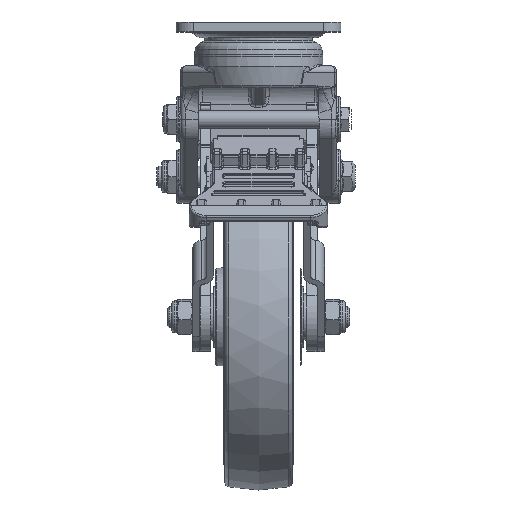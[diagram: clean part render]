
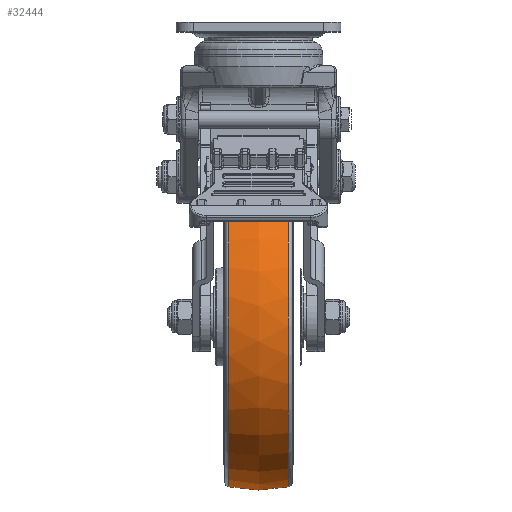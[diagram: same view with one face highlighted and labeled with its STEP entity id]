
A CAD part, front view. The second image highlights one B-rep face of the part: STEP entity #32444.
In plain terms, the highlighted free-form (B-spline) face has degree [2, 2] with [3, 9] control points.
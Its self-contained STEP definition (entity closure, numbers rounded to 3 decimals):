
#27=(
BOUNDED_SURFACE()
B_SPLINE_SURFACE(2,2,((#74589,#74590,#74591,#74592,#74593,#74594,#74595,
#74596,#74597),(#74598,#74599,#74600,#74601,#74602,#74603,#74604,#74605,
#74606),(#74607,#74608,#74609,#74610,#74611,#74612,#74613,#74614,#74615)),
 .UNSPECIFIED.,.F.,.T.,.F.)
B_SPLINE_SURFACE_WITH_KNOTS((3,3),(3,2,2,2,3),(-0.216,0.216),
(-3.142,-1.571,0.,1.571,3.142),
 .UNSPECIFIED.)
GEOMETRIC_REPRESENTATION_ITEM()
RATIONAL_B_SPLINE_SURFACE(((1.,0.707,1.,0.707,1.,
0.707,1.,0.707,1.),(0.977,0.691,
0.977,0.691,0.977,0.691,
0.977,0.691,0.977),(1.,0.707,
1.,0.707,1.,0.707,1.,0.707,1.)))
REPRESENTATION_ITEM('')
SURFACE()
);
#7821=FACE_OUTER_BOUND('',#9784,.T.);
#9784=EDGE_LOOP('',(#28146,#28147,#28148,#28149,#28150,#28151));
#11532=CIRCLE('',#35756,98.142);
#11533=CIRCLE('',#35757,98.142);
#11534=CIRCLE('',#35758,80.);
#11535=CIRCLE('',#35759,98.142);
#11536=CIRCLE('',#35760,98.142);
#14391=VERTEX_POINT('',#74584);
#14392=VERTEX_POINT('',#74586);
#14393=VERTEX_POINT('',#74616);
#14394=VERTEX_POINT('',#74618);
#18984=EDGE_CURVE('',#14391,#14392,#11532,.T.);
#18985=EDGE_CURVE('',#14392,#14391,#11533,.T.);
#18986=EDGE_CURVE('',#14391,#14393,#11534,.T.);
#18987=EDGE_CURVE('',#14393,#14394,#11535,.T.);
#18988=EDGE_CURVE('',#14394,#14393,#11536,.T.);
#28146=ORIENTED_EDGE('',*,*,#18985,.F.);
#28147=ORIENTED_EDGE('',*,*,#18984,.F.);
#28148=ORIENTED_EDGE('',*,*,#18986,.T.);
#28149=ORIENTED_EDGE('',*,*,#18987,.T.);
#28150=ORIENTED_EDGE('',*,*,#18988,.T.);
#28151=ORIENTED_EDGE('',*,*,#18986,.F.);
#32444=ADVANCED_FACE('',(#7821),#27,.F.);
#35756=AXIS2_PLACEMENT_3D('',#74587,#44068,#44069);
#35757=AXIS2_PLACEMENT_3D('',#74588,#44070,#44071);
#35758=AXIS2_PLACEMENT_3D('',#74617,#44072,#44073);
#35759=AXIS2_PLACEMENT_3D('',#74619,#44074,#44075);
#35760=AXIS2_PLACEMENT_3D('',#74620,#44076,#44077);
#44068=DIRECTION('center_axis',(-1.,0.,0.));
#44069=DIRECTION('ref_axis',(0.,-0.8,0.6));
#44070=DIRECTION('center_axis',(-1.,0.,0.));
#44071=DIRECTION('ref_axis',(0.,-0.8,0.6));
#44072=DIRECTION('center_axis',(0.,-0.6,-0.8));
#44073=DIRECTION('ref_axis',(0.,0.8,-0.6));
#44074=DIRECTION('center_axis',(-1.,0.,0.));
#44075=DIRECTION('ref_axis',(0.,-0.8,0.6));
#44076=DIRECTION('center_axis',(-1.,0.,0.));
#44077=DIRECTION('ref_axis',(0.,-0.8,0.6));
#74584=CARTESIAN_POINT('',(-17.143,23.519,-228.88));
#74586=CARTESIAN_POINT('',(-17.143,-133.516,-111.12));
#74587=CARTESIAN_POINT('Origin',(-17.143,-54.999,-170.));
#74588=CARTESIAN_POINT('Origin',(-17.143,-54.999,-170.));
#74589=CARTESIAN_POINT('Ctrl Pts',(17.143,23.519,-228.88));
#74590=CARTESIAN_POINT('Ctrl Pts',(17.143,-35.361,-307.397));
#74591=CARTESIAN_POINT('Ctrl Pts',(17.143,-113.878,-248.517));
#74592=CARTESIAN_POINT('Ctrl Pts',(17.143,-192.396,-189.638));
#74593=CARTESIAN_POINT('Ctrl Pts',(17.143,-133.516,-111.12));
#74594=CARTESIAN_POINT('Ctrl Pts',(17.143,-74.636,-32.603));
#74595=CARTESIAN_POINT('Ctrl Pts',(17.143,3.881,-91.483));
#74596=CARTESIAN_POINT('Ctrl Pts',(17.143,82.398,-150.362));
#74597=CARTESIAN_POINT('Ctrl Pts',(17.143,23.519,-228.88));
#74598=CARTESIAN_POINT('Ctrl Pts',(0.,26.528,
-231.136));
#74599=CARTESIAN_POINT('Ctrl Pts',(0.,-34.608,
-312.662));
#74600=CARTESIAN_POINT('Ctrl Pts',(0.,-116.134,
-251.526));
#74601=CARTESIAN_POINT('Ctrl Pts',(0.,-197.661,
-190.39));
#74602=CARTESIAN_POINT('Ctrl Pts',(0.,-136.525,
-108.864));
#74603=CARTESIAN_POINT('Ctrl Pts',(0.,-75.389,
-27.338));
#74604=CARTESIAN_POINT('Ctrl Pts',(0.,6.137,
-88.474));
#74605=CARTESIAN_POINT('Ctrl Pts',(0.,87.664,
-149.61));
#74606=CARTESIAN_POINT('Ctrl Pts',(0.,26.528,
-231.136));
#74607=CARTESIAN_POINT('Ctrl Pts',(-17.143,23.519,-228.88));
#74608=CARTESIAN_POINT('Ctrl Pts',(-17.143,-35.361,
-307.397));
#74609=CARTESIAN_POINT('Ctrl Pts',(-17.143,-113.878,
-248.517));
#74610=CARTESIAN_POINT('Ctrl Pts',(-17.143,-192.396,
-189.638));
#74611=CARTESIAN_POINT('Ctrl Pts',(-17.143,-133.516,
-111.12));
#74612=CARTESIAN_POINT('Ctrl Pts',(-17.143,-74.636,
-32.603));
#74613=CARTESIAN_POINT('Ctrl Pts',(-17.143,3.881,-91.483));
#74614=CARTESIAN_POINT('Ctrl Pts',(-17.143,82.398,-150.362));
#74615=CARTESIAN_POINT('Ctrl Pts',(-17.143,23.519,-228.88));
#74616=CARTESIAN_POINT('',(17.143,23.519,-228.88));
#74617=CARTESIAN_POINT('Origin',(0.,-38.998,
-181.999));
#74618=CARTESIAN_POINT('',(17.143,-133.516,-111.12));
#74619=CARTESIAN_POINT('Origin',(17.143,-54.999,-170.));
#74620=CARTESIAN_POINT('Origin',(17.143,-54.999,-170.));
